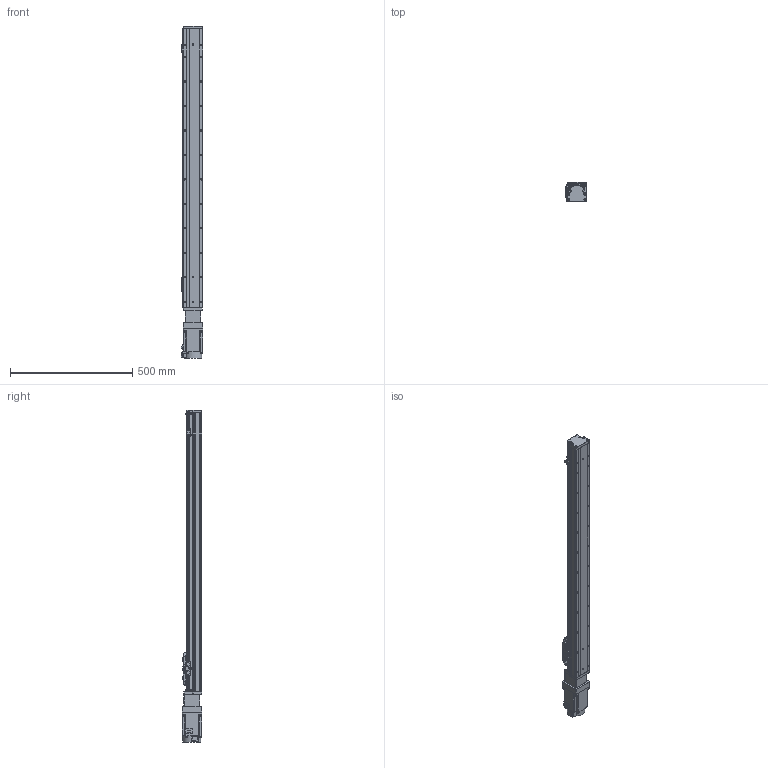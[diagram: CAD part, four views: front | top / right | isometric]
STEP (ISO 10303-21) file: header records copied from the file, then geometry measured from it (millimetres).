
FILE_DESCRIPTION (( 'STEP AP203' ), '1' );
FILE_NAME ('GTH8-950-BC-M75-C4.step', '2023-02-14T02:21:25', ( '微软用户' ), ( '微软中国' ), 'SwSTEP 2.0', 'SolidWorks 2020', '' );
FILE_SCHEMA (( 'CONFIG_CONTROL_DESIGN' ));
Length unit declared in the file: millimetre
Products named in the file (19): GBT96.1-2002 3×0.8; GTH80-001_950; GTH80-022; BTH-M3X5X6; GTH80-003; GBT 70.1-M3℅6; CTHA86-006-1_CTHA86-006-4; GTH80-004; GBT 70.1-M4×16; CTHA86-013; GTH80-006; GTH80-028; CTHA86-027; GTH80-013; GTH50-024; hg-kn73j_-s100; GTH50-023; GTH8-950-BC-M75-C4; GBT 70.3-M3℅6
Assembly tree (60 placements, depth 2):
  GTH8-950-BC-M75-C4
    GTH80-001_950
    GTH80-003
    GTH80-004
    GTH80-006
    GTH80-013
    GBT 70.3-M3℅6  x6
    GTH80-022
    GBT 70.1-M3℅6  x14
    GBT 70.1-M4×16  x8
    GTH80-028  x2
    GTH50-024  x3
    GTH50-023  x3
    GBT96.1-2002 3×0.8  x6
    BTH-M3X5X6  x8
    CTHA86-006-1_CTHA86-006-4
    CTHA86-013
    CTHA86-027
    hg-kn73j_-s100
Bounding box: 89.8 x 81.72 x 1357.2 mm (x, y, z)
Volume: 6159963.2 mm3; surface area: 594508.3 mm2
Topology: 62 solids, 62 shells, 2273 faces, 5246 edges, 3200 vertices
Faces by surface type: plane 1185, cylinder 631, cone 285, torus 162, sphere 8, bspline 2
Entity records: 40229 total; most frequent: DIRECTION 6643, CARTESIAN_POINT 6626, ORIENTED_EDGE 6082, EDGE_CURVE 3041, AXIS2_PLACEMENT_3D 2335, VECTOR 1973, LINE 1973, VERTEX_POINT 1913
